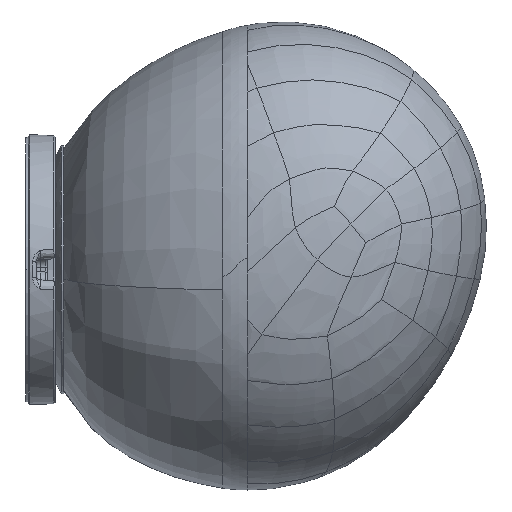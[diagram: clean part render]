
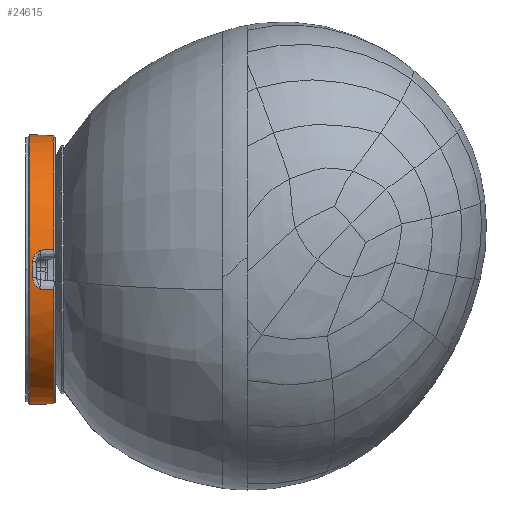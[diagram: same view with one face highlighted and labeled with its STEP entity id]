
A CAD part, left-side view. The second image highlights one B-rep face of the part: STEP entity #24615.
In plain terms, the highlighted conical face has half-angle 2 degrees and reference radius 50 mm.
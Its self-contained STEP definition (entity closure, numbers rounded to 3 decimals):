
#1201 = EDGE_CURVE ( 'NONE', #162733, #53897, #236646, .T. ) ;
#2257 = EDGE_CURVE ( 'NONE', #4844, #53897, #170062, .T. ) ;
#4844 = VERTEX_POINT ( 'NONE', #141453 ) ;
#5612 = CARTESIAN_POINT ( 'NONE',  ( -174.805, 52.526, 45.642 ) ) ;
#6234 = DIRECTION ( 'NONE',  ( 0., 1., 0. ) ) ;
#7385 = EDGE_CURVE ( 'NONE', #87083, #116291, #15121, .T. ) ;
#9404 = CARTESIAN_POINT ( 'NONE',  ( -174.25, 48.783, 56.246 ) ) ;
#12740 = ORIENTED_EDGE ( 'NONE', *, *, #82025, .T. ) ;
#14370 = CARTESIAN_POINT ( 'NONE',  ( -174.215, 47.935, 56.277 ) ) ;
#14719 = VERTEX_POINT ( 'NONE', #37758 ) ;
#15121 = CIRCLE ( 'NONE', #127255, 49.946 ) ;
#19438 = CARTESIAN_POINT ( 'NONE',  ( -174.805, 52.526, 52.306 ) ) ;
#21940 = CARTESIAN_POINT ( 'NONE',  ( -174.489, 51.046, 42.873 ) ) ;
#24615 = ADVANCED_FACE ( 'NONE', ( #193204 ), #187747, .T. ) ;
#25623 = ORIENTED_EDGE ( 'NONE', *, *, #2257, .F. ) ;
#29424 = AXIS2_PLACEMENT_3D ( 'NONE', #228751, #76877, #198488 ) ;
#29649 = CARTESIAN_POINT ( 'NONE',  ( -124.968, 44.578, 98.642 ) ) ;
#30704 = CARTESIAN_POINT ( 'NONE',  ( -174.112, 45.415, 56.372 ) ) ;
#32008 = EDGE_LOOP ( 'NONE', ( #12740, #178559, #201497, #25623, #224711, #127711, #205818, #174445, #224917, #103598 ) ) ;
#34588 = CARTESIAN_POINT ( 'NONE',  ( -174.539, 51.362, 54.751 ) ) ;
#37758 = CARTESIAN_POINT ( 'NONE',  ( -174.284, 49.631, 56.214 ) ) ;
#38109 = CARTESIAN_POINT ( 'NONE',  ( -174.215, 47.946, 41.671 ) ) ;
#38279 = CARTESIAN_POINT ( 'NONE',  ( -174.831, 52.526, 51.844 ) ) ;
#39349 = CARTESIAN_POINT ( 'NONE',  ( -174.284, 49.631, 41.734 ) ) ;
#42561 = B_SPLINE_CURVE_WITH_KNOTS ( 'NONE', 3,
 ( #38279, #19438, #150025, #226581, #186453, #148797, #225362, #34588, #242951, #74708, #52204, #113590 ),
 .UNSPECIFIED., .F., .F.,
 ( 4, 2, 2, 2, 2, 4 ),
 ( 0., 0.001, 0.002, 0.003, 0.004, 0.005 ),
 .UNSPECIFIED. ) ;
#42790 = VECTOR ( 'NONE', #106744, 1000. ) ;
#48315 = CARTESIAN_POINT ( 'NONE',  ( -174.18, 47.088, 56.309 ) ) ;
#49316 = VERTEX_POINT ( 'NONE', #198986 ) ;
#49409 = DIRECTION ( 'NONE',  ( 0., 1., 0. ) ) ;
#50371 = B_SPLINE_CURVE_WITH_KNOTS ( 'NONE', 3,
 ( #90924, #9404, #14370, #48315, #222705, #30704, #50796 ),
 .UNSPECIFIED., .F., .F.,
 ( 4, 3, 4 ),
 ( 0.003, 0.006, 0.009 ),
 .UNSPECIFIED. ) ;
#50796 = CARTESIAN_POINT ( 'NONE',  ( -174.078, 44.578, 56.403 ) ) ;
#52204 = CARTESIAN_POINT ( 'NONE',  ( -174.336, 49.997, 55.947 ) ) ;
#52798 = CARTESIAN_POINT ( 'NONE',  ( -124.968, 53.595, 48.974 ) ) ;
#53470 = CIRCLE ( 'NONE', #69571, 49.668 ) ;
#53897 = VERTEX_POINT ( 'NONE', #213279 ) ;
#64308 = VECTOR ( 'NONE', #100918, 1000. ) ;
#69571 = AXIS2_PLACEMENT_3D ( 'NONE', #144762, #49409, #204979 ) ;
#74071 = DIRECTION ( 'NONE',  ( 0., -1., 0. ) ) ;
#74708 = CARTESIAN_POINT ( 'NONE',  ( -174.387, 50.365, 55.672 ) ) ;
#76877 = DIRECTION ( 'NONE',  ( 0., 1., 0. ) ) ;
#79675 = CARTESIAN_POINT ( 'NONE',  ( -174.77, 52.443, 45.193 ) ) ;
#81606 = EDGE_CURVE ( 'NONE', #4844, #158945, #53470, .T. ) ;
#82025 = EDGE_CURVE ( 'NONE', #49316, #238386, #181682, .T. ) ;
#83655 = AXIS2_PLACEMENT_3D ( 'NONE', #214508, #97841, #248476 ) ;
#87083 = VERTEX_POINT ( 'NONE', #172927 ) ;
#90924 = CARTESIAN_POINT ( 'NONE',  ( -174.284, 49.631, 56.214 ) ) ;
#93791 = LINE ( 'NONE', #228068, #42790 ) ;
#96035 = CARTESIAN_POINT ( 'NONE',  ( -174.831, 52.526, 46.104 ) ) ;
#96680 = CARTESIAN_POINT ( 'NONE',  ( -174.078, 44.578, 41.545 ) ) ;
#97041 = B_SPLINE_CURVE_WITH_KNOTS ( 'NONE', 3,
 ( #210024, #213726, #38109, #39349 ),
 .UNSPECIFIED., .F., .F.,
 ( 4, 4 ),
 ( 0.001, 0.006 ),
 .UNSPECIFIED. ) ;
#97836 = CARTESIAN_POINT ( 'NONE',  ( -174.831, 52.526, 51.844 ) ) ;
#97841 = DIRECTION ( 'NONE',  ( 0., 1., 0. ) ) ;
#98507 = CARTESIAN_POINT ( 'NONE',  ( -174.638, 51.897, 43.939 ) ) ;
#100918 = DIRECTION ( 'NONE',  ( 0., 0.999, -0.035 ) ) ;
#103598 = ORIENTED_EDGE ( 'NONE', *, *, #134826, .T. ) ;
#106744 = DIRECTION ( 'NONE',  ( 0., 0.999, 0.035 ) ) ;
#110233 = EDGE_CURVE ( 'NONE', #158945, #191855, #97041, .T. ) ;
#111961 = EDGE_CURVE ( 'NONE', #238386, #162733, #93791, .T. ) ;
#113590 = CARTESIAN_POINT ( 'NONE',  ( -174.284, 49.631, 56.214 ) ) ;
#116096 = CARTESIAN_POINT ( 'NONE',  ( -174.539, 51.362, 43.197 ) ) ;
#116291 = VERTEX_POINT ( 'NONE', #97836 ) ;
#127255 = AXIS2_PLACEMENT_3D ( 'NONE', #138019, #6234, #134312 ) ;
#127711 = ORIENTED_EDGE ( 'NONE', *, *, #110233, .T. ) ;
#130449 = EDGE_CURVE ( 'NONE', #191855, #87083, #191253, .T. ) ;
#134312 = DIRECTION ( 'NONE',  ( 0., 0., 1. ) ) ;
#134826 = EDGE_CURVE ( 'NONE', #14719, #49316, #50371, .T. ) ;
#137389 = CARTESIAN_POINT ( 'NONE',  ( -174.337, 49.998, 42.003 ) ) ;
#138019 = CARTESIAN_POINT ( 'NONE',  ( -124.968, 52.526, 48.974 ) ) ;
#141453 = CARTESIAN_POINT ( 'NONE',  ( -124.968, 44.578, -0.694 ) ) ;
#144762 = CARTESIAN_POINT ( 'NONE',  ( -124.968, 44.578, 48.974 ) ) ;
#148797 = CARTESIAN_POINT ( 'NONE',  ( -174.638, 51.897, 54.009 ) ) ;
#150025 = CARTESIAN_POINT ( 'NONE',  ( -174.77, 52.443, 52.755 ) ) ;
#157976 = CARTESIAN_POINT ( 'NONE',  ( -124.968, 53.595, 98.957 ) ) ;
#158945 = VERTEX_POINT ( 'NONE', #96680 ) ;
#162733 = VERTEX_POINT ( 'NONE', #157976 ) ;
#170062 = LINE ( 'NONE', #190135, #64308 ) ;
#172927 = CARTESIAN_POINT ( 'NONE',  ( -174.831, 52.526, 46.104 ) ) ;
#174445 = ORIENTED_EDGE ( 'NONE', *, *, #7385, .T. ) ;
#175041 = CARTESIAN_POINT ( 'NONE',  ( -174.684, 52.115, 44.338 ) ) ;
#177521 = CARTESIAN_POINT ( 'NONE',  ( -174.706, 52.21, 44.545 ) ) ;
#178559 = ORIENTED_EDGE ( 'NONE', *, *, #111961, .T. ) ;
#181682 = CIRCLE ( 'NONE', #29424, 49.668 ) ;
#186453 = CARTESIAN_POINT ( 'NONE',  ( -174.684, 52.115, 53.61 ) ) ;
#187747 = CONICAL_SURFACE ( 'NONE', #83655, 50., 0.035 ) ;
#190135 = CARTESIAN_POINT ( 'NONE',  ( -124.968, 54.078, -1.026 ) ) ;
#191253 = B_SPLINE_CURVE_WITH_KNOTS ( 'NONE', 3,
 ( #192636, #137389, #191410, #21940, #116096, #213945, #98507, #175041, #177521, #79675, #5612, #96035 ),
 .UNSPECIFIED., .F., .F.,
 ( 4, 2, 2, 2, 2, 4 ),
 ( 0., 0.001, 0.003, 0.003, 0.004, 0.005 ),
 .UNSPECIFIED. ) ;
#191410 = CARTESIAN_POINT ( 'NONE',  ( -174.387, 50.365, 42.276 ) ) ;
#191855 = VERTEX_POINT ( 'NONE', #229288 ) ;
#192636 = CARTESIAN_POINT ( 'NONE',  ( -174.284, 49.631, 41.734 ) ) ;
#193204 = FACE_OUTER_BOUND ( 'NONE', #32008, .T. ) ;
#198488 = DIRECTION ( 'NONE',  ( 0., 0., 1. ) ) ;
#198986 = CARTESIAN_POINT ( 'NONE',  ( -174.078, 44.578, 56.403 ) ) ;
#201497 = ORIENTED_EDGE ( 'NONE', *, *, #1201, .T. ) ;
#204643 = DIRECTION ( 'NONE',  ( 0., 0., -1. ) ) ;
#204979 = DIRECTION ( 'NONE',  ( 0., 0., 1. ) ) ;
#205818 = ORIENTED_EDGE ( 'NONE', *, *, #130449, .T. ) ;
#210024 = CARTESIAN_POINT ( 'NONE',  ( -174.078, 44.578, 41.545 ) ) ;
#213279 = CARTESIAN_POINT ( 'NONE',  ( -124.968, 53.595, -1.009 ) ) ;
#213456 = EDGE_CURVE ( 'NONE', #116291, #14719, #42561, .T. ) ;
#213726 = CARTESIAN_POINT ( 'NONE',  ( -174.147, 46.262, 41.608 ) ) ;
#213945 = CARTESIAN_POINT ( 'NONE',  ( -174.613, 51.772, 43.746 ) ) ;
#214508 = CARTESIAN_POINT ( 'NONE',  ( -124.968, 54.078, 48.974 ) ) ;
#216557 = AXIS2_PLACEMENT_3D ( 'NONE', #52798, #74071, #204643 ) ;
#222705 = CARTESIAN_POINT ( 'NONE',  ( -174.146, 46.251, 56.34 ) ) ;
#224711 = ORIENTED_EDGE ( 'NONE', *, *, #81606, .T. ) ;
#224917 = ORIENTED_EDGE ( 'NONE', *, *, #213456, .T. ) ;
#225362 = CARTESIAN_POINT ( 'NONE',  ( -174.613, 51.772, 54.202 ) ) ;
#226581 = CARTESIAN_POINT ( 'NONE',  ( -174.706, 52.21, 53.403 ) ) ;
#228068 = CARTESIAN_POINT ( 'NONE',  ( -124.968, 54.078, 98.974 ) ) ;
#228751 = CARTESIAN_POINT ( 'NONE',  ( -124.968, 44.578, 48.974 ) ) ;
#229288 = CARTESIAN_POINT ( 'NONE',  ( -174.284, 49.631, 41.734 ) ) ;
#236646 = CIRCLE ( 'NONE', #216557, 49.983 ) ;
#238386 = VERTEX_POINT ( 'NONE', #29649 ) ;
#242951 = CARTESIAN_POINT ( 'NONE',  ( -174.489, 51.046, 55.075 ) ) ;
#248476 = DIRECTION ( 'NONE',  ( 0., 0., -1. ) ) ;
